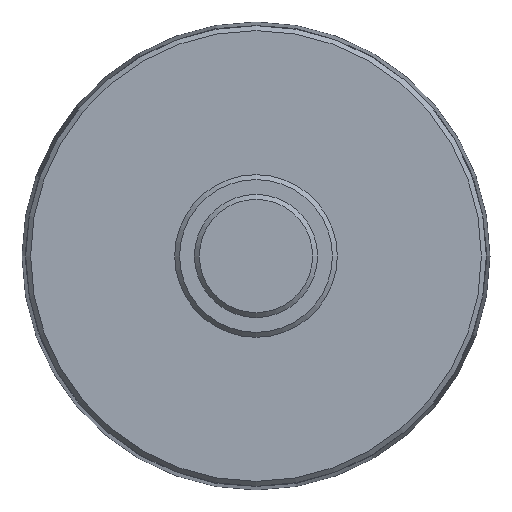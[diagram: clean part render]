
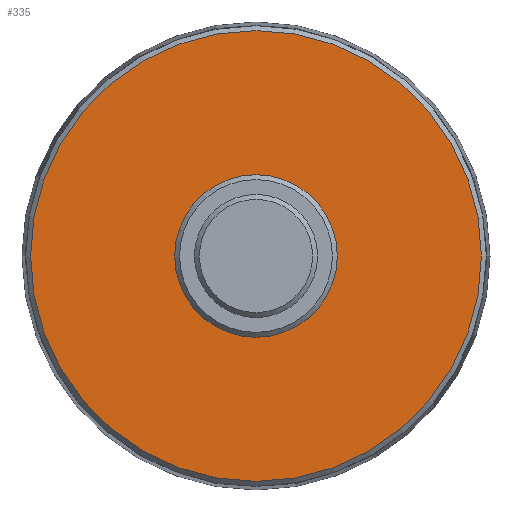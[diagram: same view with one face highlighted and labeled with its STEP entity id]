
A CAD part, left-side view. The second image highlights one B-rep face of the part: STEP entity #335.
In plain terms, the highlighted planar face has unit normal (-1, 0, 0).
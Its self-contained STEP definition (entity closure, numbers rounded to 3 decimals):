
#301=CARTESIAN_POINT('',(-403.0,-45.75,0.0));
#302=VERTEX_POINT('',#301);
#303=CARTESIAN_POINT('',(-403.0,0.0,0.0));
#304=DIRECTION('',(-1.0,0.0,0.0));
#305=DIRECTION('',(0.0,-1.0,0.0));
#306=AXIS2_PLACEMENT_3D('',#303,#304,#305);
#307=CIRCLE('',#306,45.75);
#308=EDGE_CURVE('',#302,#302,#307,.T.);
#316=CARTESIAN_POINT('',(-403.0,-31.125,0.0));
#317=DIRECTION('',(-1.0,0.0,0.0));
#318=DIRECTION('',(0.0,0.0,1.0));
#319=AXIS2_PLACEMENT_3D('',#316,#317,#318);
#320=PLANE('',#319);
#321=ORIENTED_EDGE('',*,*,#308,.T.);
#322=EDGE_LOOP('',(#321));
#323=FACE_OUTER_BOUND('',#322,.T.);
#324=CARTESIAN_POINT('',(-403.0,-16.5,0.0));
#325=VERTEX_POINT('',#324);
#326=CARTESIAN_POINT('',(-403.0,0.0,0.0));
#327=DIRECTION('',(-1.0,0.0,0.0));
#328=DIRECTION('',(0.0,-1.0,0.0));
#329=AXIS2_PLACEMENT_3D('',#326,#327,#328);
#330=CIRCLE('',#329,16.5);
#331=EDGE_CURVE('',#325,#325,#330,.T.);
#332=ORIENTED_EDGE('',*,*,#331,.F.);
#333=EDGE_LOOP('',(#332));
#334=FACE_BOUND('',#333,.T.);
#335=ADVANCED_FACE('',(#323,#334),#320,.T.);
